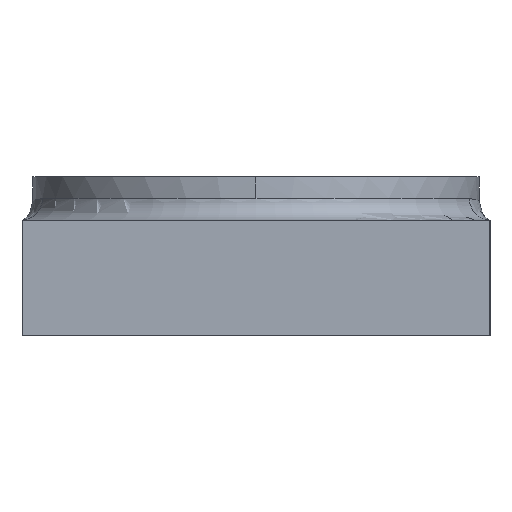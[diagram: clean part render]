
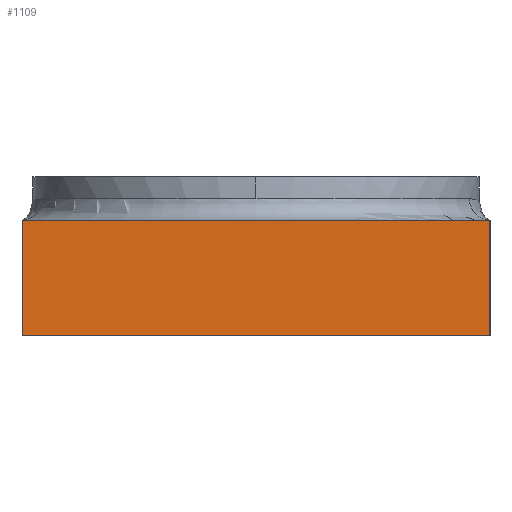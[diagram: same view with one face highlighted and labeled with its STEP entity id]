
A CAD part, left-side view. The second image highlights one B-rep face of the part: STEP entity #1109.
In plain terms, the highlighted planar face has unit normal (-1, 0, 0).
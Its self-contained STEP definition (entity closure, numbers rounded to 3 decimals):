
#22 = AXIS2_PLACEMENT_3D ( 'NONE', #490, #2912, #1458 ) ;
#154 = CARTESIAN_POINT ( 'NONE',  ( -80., 65., 0. ) ) ;
#230 = VECTOR ( 'NONE', #2976, 1000. ) ;
#295 = VERTEX_POINT ( 'NONE', #2853 ) ;
#337 = VECTOR ( 'NONE', #1653, 1000. ) ;
#348 = VECTOR ( 'NONE', #2701, 1000. ) ;
#415 = EDGE_CURVE ( 'NONE', #295, #2563, #2455, .T. ) ;
#490 = CARTESIAN_POINT ( 'NONE',  ( -80., -65., 0. ) ) ;
#521 = EDGE_LOOP ( 'NONE', ( #1303, #2630, #2137, #765 ) ) ;
#572 = LINE ( 'NONE', #154, #2859 ) ;
#765 = ORIENTED_EDGE ( 'NONE', *, *, #2263, .T. ) ;
#864 = VERTEX_POINT ( 'NONE', #1982 ) ;
#909 = EDGE_CURVE ( 'NONE', #864, #2563, #572, .T. ) ;
#1109 = ADVANCED_FACE ( 'NONE', ( #1695 ), #2671, .F. ) ;
#1265 = CARTESIAN_POINT ( 'NONE',  ( -80., -65., 0. ) ) ;
#1303 = ORIENTED_EDGE ( 'NONE', *, *, #415, .T. ) ;
#1458 = DIRECTION ( 'NONE',  ( 0., 1., 0. ) ) ;
#1653 = DIRECTION ( 'NONE',  ( 0., 1., 0. ) ) ;
#1695 = FACE_OUTER_BOUND ( 'NONE', #521, .T. ) ;
#1704 = CARTESIAN_POINT ( 'NONE',  ( -80., -65., 0. ) ) ;
#1866 = VERTEX_POINT ( 'NONE', #2577 ) ;
#1982 = CARTESIAN_POINT ( 'NONE',  ( -80., 65., 0. ) ) ;
#2137 = ORIENTED_EDGE ( 'NONE', *, *, #2890, .F. ) ;
#2263 = EDGE_CURVE ( 'NONE', #1866, #295, #2479, .T. ) ;
#2455 = LINE ( 'NONE', #2717, #348 ) ;
#2479 = LINE ( 'NONE', #1265, #230 ) ;
#2557 = DIRECTION ( 'NONE',  ( 0., 0., 1. ) ) ;
#2563 = VERTEX_POINT ( 'NONE', #2984 ) ;
#2577 = CARTESIAN_POINT ( 'NONE',  ( -80., -65., 0. ) ) ;
#2630 = ORIENTED_EDGE ( 'NONE', *, *, #909, .F. ) ;
#2671 = PLANE ( 'NONE',  #22 ) ;
#2701 = DIRECTION ( 'NONE',  ( 0., 1., 0. ) ) ;
#2717 = CARTESIAN_POINT ( 'NONE',  ( -80., -65., 32. ) ) ;
#2853 = CARTESIAN_POINT ( 'NONE',  ( -80., -65., 32. ) ) ;
#2859 = VECTOR ( 'NONE', #2557, 1000. ) ;
#2890 = EDGE_CURVE ( 'NONE', #1866, #864, #2953, .T. ) ;
#2912 = DIRECTION ( 'NONE',  ( 1., 0., 0. ) ) ;
#2953 = LINE ( 'NONE', #1704, #337 ) ;
#2976 = DIRECTION ( 'NONE',  ( 0., 0., 1. ) ) ;
#2984 = CARTESIAN_POINT ( 'NONE',  ( -80., 65., 32. ) ) ;
